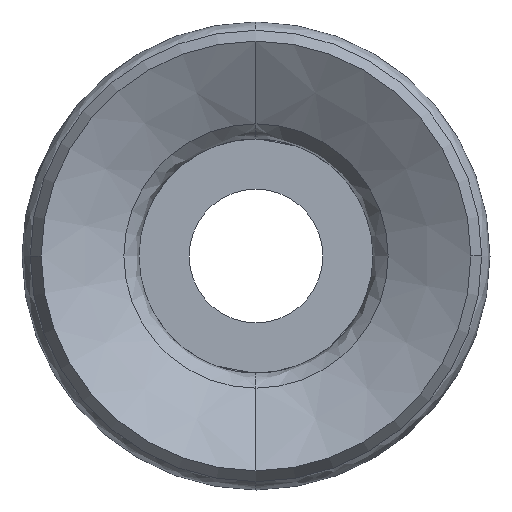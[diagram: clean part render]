
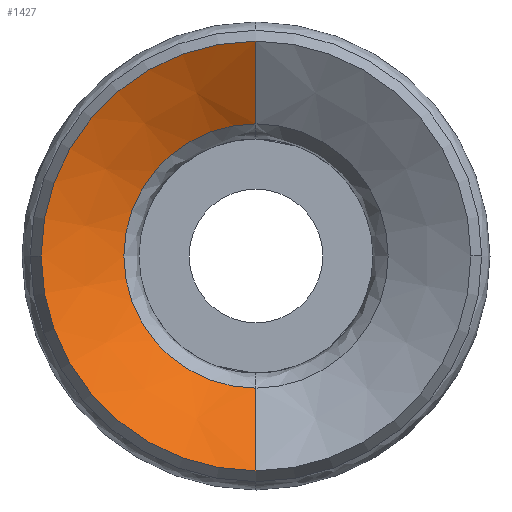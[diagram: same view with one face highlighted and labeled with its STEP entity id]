
A CAD part, front view. The second image highlights one B-rep face of the part: STEP entity #1427.
In plain terms, the highlighted conical face has half-angle 58.808 degrees and reference radius 7.904 mm.
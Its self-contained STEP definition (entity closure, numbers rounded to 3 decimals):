
#55 = FACE_OUTER_BOUND ( 'NONE', #1383, .T. ) ;
#101 = DIRECTION ( 'NONE',  ( 0., -0.518, -0.855 ) ) ;
#159 = CIRCLE ( 'NONE', #1136, 12.853 ) ;
#226 = LINE ( 'NONE', #1124, #1773 ) ;
#231 = DIRECTION ( 'NONE',  ( 0., -1., 0. ) ) ;
#256 = AXIS2_PLACEMENT_3D ( 'NONE', #1079, #1069, #1062 ) ;
#263 = CARTESIAN_POINT ( 'NONE',  ( -12.853, -24.5, 0. ) ) ;
#279 = VERTEX_POINT ( 'NONE', #1831 ) ;
#399 = CARTESIAN_POINT ( 'NONE',  ( 0., -21.504, -7.904 ) ) ;
#539 = ORIENTED_EDGE ( 'NONE', *, *, #1243, .T. ) ;
#572 = ORIENTED_EDGE ( 'NONE', *, *, #785, .T. ) ;
#607 = VERTEX_POINT ( 'NONE', #1370 ) ;
#696 = CARTESIAN_POINT ( 'NONE',  ( 0., -21.504, 7.904 ) ) ;
#778 = VECTOR ( 'NONE', #1726, 1000. ) ;
#785 = EDGE_CURVE ( 'NONE', #279, #1382, #1941, .T. ) ;
#881 = ORIENTED_EDGE ( 'NONE', *, *, #1449, .T. ) ;
#897 = EDGE_CURVE ( 'NONE', #1705, #607, #226, .T. ) ;
#917 = ORIENTED_EDGE ( 'NONE', *, *, #897, .F. ) ;
#945 = ORIENTED_EDGE ( 'NONE', *, *, #1543, .T. ) ;
#1062 = DIRECTION ( 'NONE',  ( 1., 0., 0. ) ) ;
#1069 = DIRECTION ( 'NONE',  ( 0., 1., 0. ) ) ;
#1079 = CARTESIAN_POINT ( 'NONE',  ( 0., -21.504, 0. ) ) ;
#1124 = CARTESIAN_POINT ( 'NONE',  ( 0., -21.504, -7.904 ) ) ;
#1136 = AXIS2_PLACEMENT_3D ( 'NONE', #1649, #1462, #1564 ) ;
#1160 = CIRCLE ( 'NONE', #256, 7.904 ) ;
#1243 = EDGE_CURVE ( 'NONE', #1382, #1783, #159, .T. ) ;
#1370 = CARTESIAN_POINT ( 'NONE',  ( 0., -24.5, -12.853 ) ) ;
#1382 = VERTEX_POINT ( 'NONE', #1549 ) ;
#1383 = EDGE_LOOP ( 'NONE', ( #945, #572, #539, #881, #917 ) ) ;
#1427 = ADVANCED_FACE ( 'NONE', ( #55 ), #1582, .F. ) ;
#1449 = EDGE_CURVE ( 'NONE', #1783, #607, #1939, .T. ) ;
#1462 = DIRECTION ( 'NONE',  ( 0., -1., 0. ) ) ;
#1543 = EDGE_CURVE ( 'NONE', #1705, #279, #1160, .T. ) ;
#1549 = CARTESIAN_POINT ( 'NONE',  ( 0., -24.5, 12.853 ) ) ;
#1564 = DIRECTION ( 'NONE',  ( 0., 0., 1. ) ) ;
#1582 = CONICAL_SURFACE ( 'NONE', #1923, 7.904, 1.026 ) ;
#1649 = CARTESIAN_POINT ( 'NONE',  ( 0., -24.5, 0. ) ) ;
#1705 = VERTEX_POINT ( 'NONE', #399 ) ;
#1724 = DIRECTION ( 'NONE',  ( 0., 0., 1. ) ) ;
#1726 = DIRECTION ( 'NONE',  ( 0., -0.518, 0.855 ) ) ;
#1736 = DIRECTION ( 'NONE',  ( 0., -1., 0. ) ) ;
#1743 = CARTESIAN_POINT ( 'NONE',  ( 0., -24.5, 0. ) ) ;
#1773 = VECTOR ( 'NONE', #101, 1000. ) ;
#1783 = VERTEX_POINT ( 'NONE', #263 ) ;
#1831 = CARTESIAN_POINT ( 'NONE',  ( 0., -21.504, 7.904 ) ) ;
#1840 = DIRECTION ( 'NONE',  ( 0., 0., -1. ) ) ;
#1846 = CARTESIAN_POINT ( 'NONE',  ( 0., -21.504, 0. ) ) ;
#1854 = AXIS2_PLACEMENT_3D ( 'NONE', #1743, #1736, #1724 ) ;
#1923 = AXIS2_PLACEMENT_3D ( 'NONE', #1846, #231, #1840 ) ;
#1939 = CIRCLE ( 'NONE', #1854, 12.853 ) ;
#1941 = LINE ( 'NONE', #696, #778 ) ;
